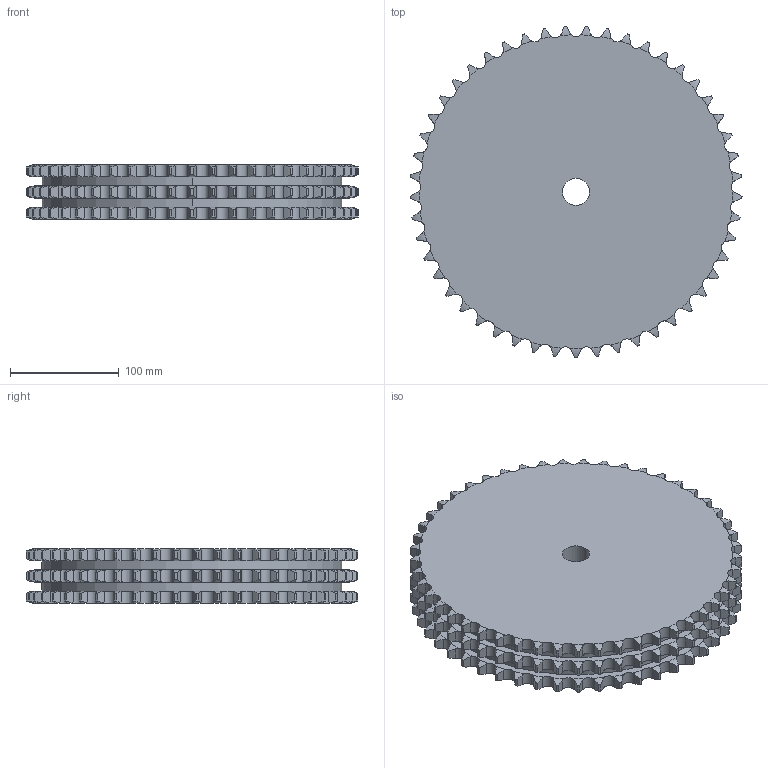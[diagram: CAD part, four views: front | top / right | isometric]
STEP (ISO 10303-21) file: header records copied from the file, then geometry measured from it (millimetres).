
FILE_DESCRIPTION((''),'2;1');
FILE_NAME('500-403-0049_PRT','2021-02-12T',('Brieden'),('Brieden'),'PRO/ENGINEER BY PARAMETRIC TECHNOLOGY CORPORATION, 2010160','PRO/ENGINEER BY PARAMETRIC TECHNOLOGY CORPORATION, 2010160','');
FILE_SCHEMA(('AUTOMOTIVE_DESIGN { 1 0 10303 214 1 1 1 1 }'));
Length unit declared in the file: millimetre
Products named in the file (1): 500-403-0049_PRT
Bounding box: 304.83 x 304.68 x 49.8 mm (x, y, z)
Volume: 3192033 mm3; surface area: 227015.1 mm2
Topology: 1 solids, 1 shells, 894 faces, 2664 edges, 1776 vertices
Faces by surface type: cylinder 594, torus 294, plane 6
Entity records: 44158 total; most frequent: CARTESIAN_POINT 13519, ORIENTED_EDGE 5328, DIRECTION 4170, PRESENTATION_STYLE_ASSIGNMENT 2665, STYLED_ITEM 2665, CURVE_STYLE 2664, EDGE_CURVE 2664, AXIS2_PLACEMENT_3D 1788
